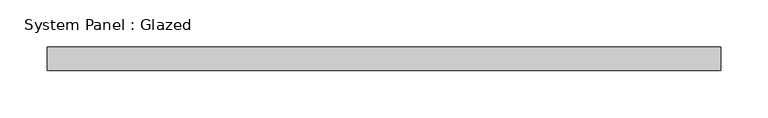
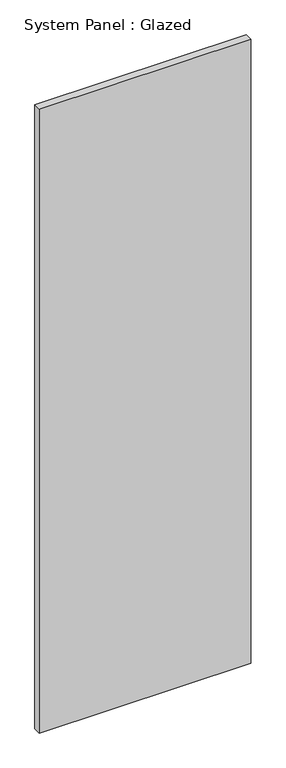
"""IFC4 building model written with IfcOpenShell, lengths in millimetres: plate geometry, System Panel : Glazed."""

from ifc_helpers import new_model, si_unit, origin, origin_with_axes, place, context, project, spatial, polyline, outline, extrude, source, transform, mapped, element, save


def system_panel_glazed_6aca887c(model_context):
    return source(origin(), model_context, "Body", "SweptSolid", [
        extrude(outline(polyline([(356.6666668, 24.5), (-356.6666668, 24.5), (-356.6666668, 49.5), (356.6666668, 49.5), (356.6666668, 24.5)])), origin_with_axes(), (0.0, 0.0, 1.0), 2225.0),
    ])


if __name__ == "__main__":
    model = new_model("IFC4")
    model_context = context("Model", 3, world=origin())
    ifc_project = project(units=[si_unit("LENGTHUNIT", "METRE", prefix="MILLI")], contexts=[model_context])
    site = spatial("IfcSite", under=ifc_project)
    building = spatial("IfcBuilding", under=site)
    placement = place(None, origin())
    system_panel_glazed_shape = system_panel_glazed_6aca887c(model_context)
    element("IfcPlate", 1, ObjectType="System Panel : Glazed", at=placement, inside=building, context=model_context, shape_type="MappedRepresentation", body=[
        mapped(system_panel_glazed_shape, transform((0.0, 0.0, 0.0), x_axis=(1.0, 0.0, 0.0), y_axis=(0.0, 1.0, 0.0), z_axis=(0.0, 0.0, 1.0))),
    ])
    save(model, "model.ifc")
